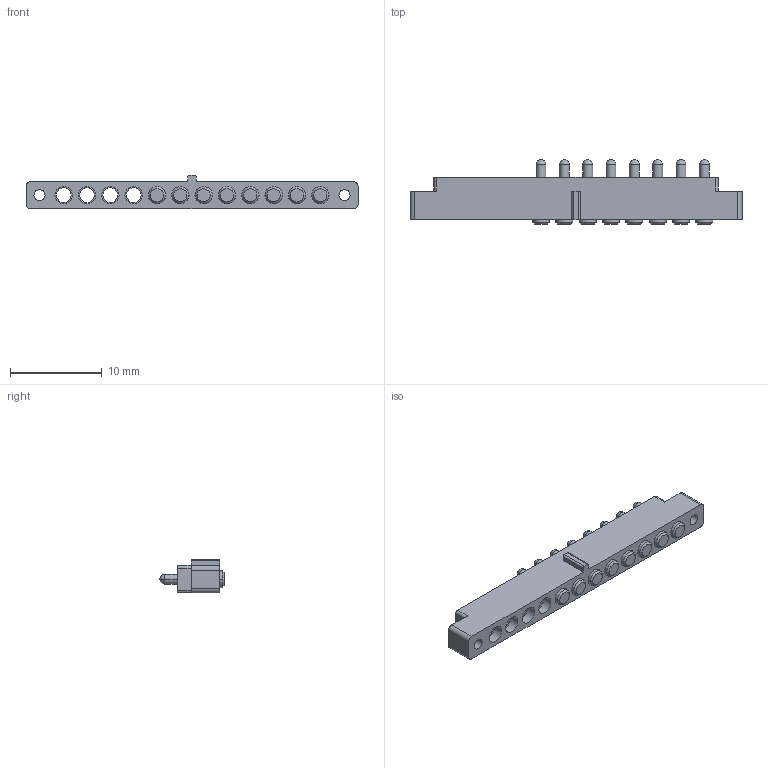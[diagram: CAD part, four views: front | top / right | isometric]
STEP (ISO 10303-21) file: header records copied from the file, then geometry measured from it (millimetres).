
FILE_DESCRIPTION((''),'2;1');
FILE_NAME('ASM0002_ASM','2023-06-07T16:55:30',('USER'),(''),'CREO PARAMETRIC BY PTC INC, 2020154','CREO PARAMETRIC BY PTC INC, 2020154','');
FILE_SCHEMA(('CONFIG_CONTROL_DESIGN'));
Length unit declared in the file: millimetre
Products named in the file (3): H4165-12254A; PRT0004; ASM0002_ASM
Assembly tree (9 placements, depth 2):
  ASM0002_ASM
    H4165-12254A
    PRT0004  x8
Bounding box: 36.14 x 7 x 3.7 mm (x, y, z)
Volume: 446.7 mm3; surface area: 1111.6 mm2
Topology: 9 solids, 9 shells, 264 faces, 574 edges, 348 vertices
Faces by surface type: cylinder 142, plane 58, cone 32, sphere 16, torus 16
Entity records: 3468 total; most frequent: DIRECTION 660, CARTESIAN_POINT 559, ORIENTED_EDGE 528, AXIS2_PLACEMENT_3D 274, EDGE_CURVE 264, VERTEX_POINT 173, EDGE_LOOP 153, CIRCLE 152
